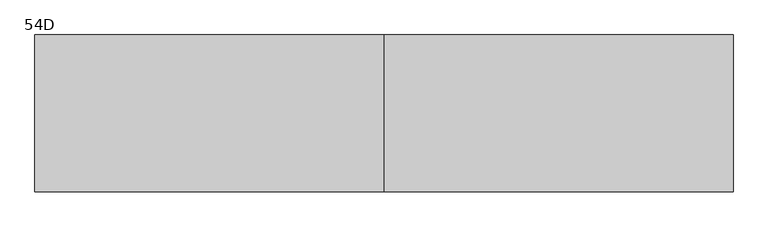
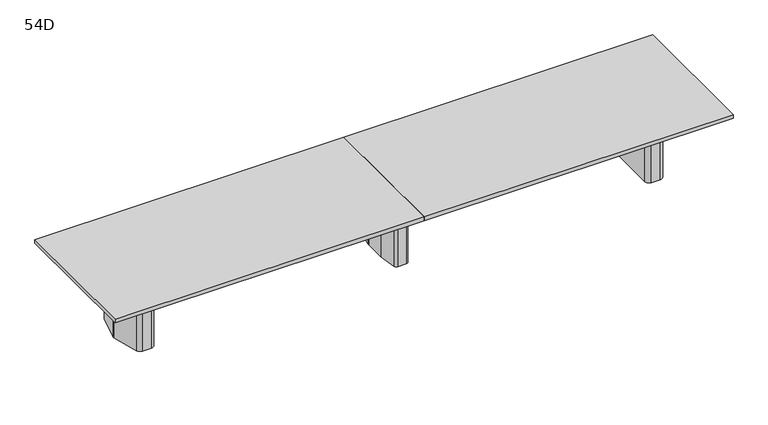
"""IFC4 building model written with IfcOpenShell, lengths in millimetres: furniture geometry, Coalesse_AM_Table_Conference_ETable2_Rectangular_20ft_ThreeBase : 54D."""

from ifc_helpers import new_model, si_unit, frame, origin, place, context, project, spatial, polyline, circle_curve, outline, extrude, source, transform, mapped, element, save
from ifc_brep_helpers import plane_surface, cylinder_surface, revolved_surface, advanced_brep


def furniture_54d_8b636b1f(model_context):
    return source(origin(), model_context, "Body", "SolidModel", [
        advanced_brep(
        [(35.71875, 206.375, 3.175), (10.31875, 231.775, 3.175), (-10.31875, 231.775, 3.175), (-35.71875, 206.375, 3.175), (-35.71875, -206.375, 3.175), (-10.31875, -231.775, 3.175), (10.31875, -231.775, 3.175), (35.71875, -206.375, 3.175), (-61.11875, 206.375, 0.0), (-10.31875, 257.175, 0.0), (10.31875, 257.175, 0.0), (61.11875, 206.375, 0.0), (61.11875, -206.375, 0.0), (10.31875, -257.175, 0.0), (-10.31875, -257.175, 0.0), (-61.11875, -206.375, 0.0), (-61.11875, -206.375, 3.175), (-61.11875, 206.375, 3.175), (-10.31875, -257.175, 3.175), (10.31875, -257.175, 3.175), (61.11875, -206.375, 3.175), (61.11875, 206.375, 3.175), (10.31875, 257.175, 3.175), (-10.31875, 257.175, 3.175), (-92.6215974, 106.2976848, 698.5), (-92.86875, 102.7629613, 698.5), (-92.86875, -102.7629613, 698.5), (-92.6215974, -106.2976848, 698.5), (-67.7988375, -282.9347235, 698.5), (-42.6459902, -304.8, 698.5), (42.6459902, -304.8, 698.5), (67.7988375, -282.9347235, 698.5), (92.6215974, -106.2976848, 698.5), (92.86875, -102.7629613, 698.5), (92.86875, 102.7629613, 698.5), (92.6215974, 106.2976848, 698.5), (67.7988375, 282.9347235, 698.5), (42.6459902, 304.8, 698.5), (-42.6459902, 304.8, 698.5), (-67.7988375, 282.9347235, 698.5), (10.31875, 231.775, 698.5), (35.71875, 206.375, 698.5), (35.71875, -206.375, 698.5), (10.31875, -231.775, 698.5), (-10.31875, -231.775, 698.5), (-35.71875, -206.375, 698.5), (-35.71875, 206.375, 698.5), (-10.31875, 231.775, 698.5), (-92.6215974, 106.2976848, 3.175), (-67.7988375, 282.9347235, 3.175), (-42.6459902, 304.8, 3.175), (42.6459902, 304.8, 3.175), (67.7988375, 282.9347235, 3.175), (92.6215974, 106.2976848, 3.175), (92.86875, 102.7629613, 3.175), (92.86875, -102.7629613, 3.175), (92.6215974, -106.2976848, 3.175), (67.7988375, -282.9347235, 3.175), (42.6459902, -304.8, 3.175), (-42.6459902, -304.8, 3.175), (-67.7988375, -282.9347235, 3.175), (-92.6215974, -106.2976848, 3.175), (-92.86875, -102.7629613, 3.175), (-92.86875, 102.7629613, 3.175)],
        [
            (0, 1, circle_curve(frame((10.31875, 206.375, 3.175), z_axis=(0.0, 0.0, 1.0), x_axis=(1.0, 0.0, 0.0)), 25.4)),
            (1, 2),
            (2, 3, circle_curve(frame((-10.31875, 206.375, 3.175), z_axis=(0.0, 0.0, 1.0), x_axis=(1.0, 0.0, 0.0)), 25.4)),
            (3, 4),
            (4, 5, circle_curve(frame((-10.31875, -206.375, 3.175), z_axis=(0.0, 0.0, 1.0), x_axis=(1.0, 0.0, 0.0)), 25.4)),
            (5, 6),
            (6, 7, circle_curve(frame((10.31875, -206.375, 3.175), z_axis=(0.0, 0.0, 1.0), x_axis=(1.0, 0.0, 0.0)), 25.4)),
            (7, 0),
            (8, 9, circle_curve(frame((-10.31875, 206.375, 0.0), z_axis=(0.0, 0.0, -1.0), x_axis=(1.0, 0.0, 0.0)), 50.8)),
            (9, 10),
            (10, 11, circle_curve(frame((10.31875, 206.375, 0.0), z_axis=(0.0, 0.0, -1.0), x_axis=(1.0, 0.0, 0.0)), 50.8)),
            (11, 12),
            (12, 13, circle_curve(frame((10.31875, -206.375, 0.0), z_axis=(0.0, 0.0, -1.0), x_axis=(1.0, 0.0, 0.0)), 50.8)),
            (13, 14),
            (14, 15, circle_curve(frame((-10.31875, -206.375, 0.0), z_axis=(0.0, 0.0, -1.0), x_axis=(1.0, 0.0, 0.0)), 50.8)),
            (15, 8),
            (15, 16),
            (16, 17),
            (17, 8),
            (14, 18),
            (18, 16, circle_curve(frame((-10.31875, -206.375, 3.175), z_axis=(0.0, 0.0, -1.0), x_axis=(1.0, 0.0, 0.0)), 50.8)),
            (13, 19),
            (19, 18),
            (12, 20),
            (20, 19, circle_curve(frame((10.31875, -206.375, 3.175), z_axis=(0.0, 0.0, -1.0), x_axis=(1.0, 0.0, 0.0)), 50.8)),
            (11, 21),
            (21, 20),
            (10, 22),
            (22, 21, circle_curve(frame((10.31875, 206.375, 3.175), z_axis=(0.0, 0.0, -1.0), x_axis=(1.0, 0.0, 0.0)), 50.8)),
            (9, 23),
            (23, 22),
            (17, 23, circle_curve(frame((-10.31875, 206.375, 3.175), z_axis=(0.0, 0.0, -1.0), x_axis=(1.0, 0.0, 0.0)), 50.8)),
            (24, 25, circle_curve(frame((-67.46875, 102.7629613, 698.5), z_axis=(0.0, 0.0, 1.0), x_axis=(1.0, 0.0, 0.0)), 25.4)),
            (25, 26),
            (26, 27, circle_curve(frame((-67.46875, -102.7629613, 698.5), z_axis=(0.0, 0.0, 1.0), x_axis=(1.0, 0.0, 0.0)), 25.4)),
            (27, 28),
            (28, 29, circle_curve(frame((-42.6459902, -279.4, 698.5), z_axis=(0.0, 0.0, 1.0), x_axis=(1.0, 0.0, 0.0)), 25.4)),
            (29, 30),
            (30, 31, circle_curve(frame((42.6459902, -279.4, 698.5), z_axis=(0.0, 0.0, 1.0), x_axis=(1.0, 0.0, 0.0)), 25.4)),
            (31, 32),
            (32, 33, circle_curve(frame((67.46875, -102.7629613, 698.5), z_axis=(0.0, 0.0, 1.0), x_axis=(1.0, 0.0, 0.0)), 25.4)),
            (33, 34),
            (34, 35, circle_curve(frame((67.46875, 102.7629613, 698.5), z_axis=(0.0, 0.0, 1.0), x_axis=(1.0, 0.0, 0.0)), 25.4)),
            (35, 36),
            (36, 37, circle_curve(frame((42.6459902, 279.4, 698.5), z_axis=(0.0, 0.0, 1.0), x_axis=(1.0, 0.0, 0.0)), 25.4)),
            (37, 38),
            (38, 39, circle_curve(frame((-42.6459902, 279.4, 698.5), z_axis=(0.0, 0.0, 1.0), x_axis=(1.0, 0.0, 0.0)), 25.4)),
            (39, 24),
            (40, 41, circle_curve(frame((10.31875, 206.375, 698.5), z_axis=(0.0, 0.0, -1.0), x_axis=(1.0, 0.0, 0.0)), 25.4)),
            (41, 42),
            (42, 43, circle_curve(frame((10.31875, -206.375, 698.5), z_axis=(0.0, 0.0, -1.0), x_axis=(1.0, 0.0, 0.0)), 25.4)),
            (43, 44),
            (44, 45, circle_curve(frame((-10.31875, -206.375, 698.5), z_axis=(0.0, 0.0, -1.0), x_axis=(1.0, 0.0, 0.0)), 25.4)),
            (45, 46),
            (46, 47, circle_curve(frame((-10.31875, 206.375, 698.5), z_axis=(0.0, 0.0, -1.0), x_axis=(1.0, 0.0, 0.0)), 25.4)),
            (47, 40),
            (48, 49),
            (49, 50, circle_curve(frame((-42.6459902, 279.4, 3.175), z_axis=(0.0, 0.0, -1.0), x_axis=(1.0, 0.0, 0.0)), 25.4)),
            (50, 51),
            (51, 52, circle_curve(frame((42.6459902, 279.4, 3.175), z_axis=(0.0, 0.0, -1.0), x_axis=(1.0, 0.0, 0.0)), 25.4)),
            (52, 53),
            (53, 54, circle_curve(frame((67.46875, 102.7629613, 3.175), z_axis=(0.0, 0.0, -1.0), x_axis=(1.0, 0.0, 0.0)), 25.4)),
            (54, 55),
            (55, 56, circle_curve(frame((67.46875, -102.7629613, 3.175), z_axis=(0.0, 0.0, -1.0), x_axis=(1.0, 0.0, 0.0)), 25.4)),
            (56, 57),
            (57, 58, circle_curve(frame((42.6459902, -279.4, 3.175), z_axis=(0.0, 0.0, -1.0), x_axis=(1.0, 0.0, 0.0)), 25.4)),
            (58, 59),
            (59, 60, circle_curve(frame((-42.6459902, -279.4, 3.175), z_axis=(0.0, 0.0, -1.0), x_axis=(1.0, 0.0, 0.0)), 25.4)),
            (60, 61),
            (61, 62, circle_curve(frame((-67.46875, -102.7629613, 3.175), z_axis=(0.0, 0.0, -1.0), x_axis=(1.0, 0.0, 0.0)), 25.4)),
            (62, 63),
            (63, 48, circle_curve(frame((-67.46875, 102.7629613, 3.175), z_axis=(0.0, 0.0, -1.0), x_axis=(1.0, 0.0, 0.0)), 25.4)),
            (24, 48),
            (63, 25),
            (62, 26),
            (61, 27),
            (60, 28),
            (59, 29),
            (58, 30),
            (57, 31),
            (56, 32),
            (55, 33),
            (54, 34),
            (53, 35),
            (52, 36),
            (51, 37),
            (50, 38),
            (49, 39),
            (40, 1),
            (0, 41),
            (7, 42),
            (6, 43),
            (5, 44),
            (4, 45),
            (3, 46),
            (2, 47),
        ],
        [
            plane_surface(frame((-61.11875, -206.375, 3.175), z_axis=(0.0, 0.0, 1.0), x_axis=(0.0, -1.0, 0.0))),
            plane_surface(frame((-61.11875, -206.375, 0.0), z_axis=(0.0, 0.0, -1.0), x_axis=(0.0, 1.0, 0.0))),
            plane_surface(frame((-61.11875, 206.375, 3.175), z_axis=(-1.0, 0.0, 0.0), x_axis=(0.0, 0.0, -1.0))),
            cylinder_surface(frame((-10.31875, -206.375, 0.0), z_axis=(0.0, 0.0, 1.0), x_axis=(1.0, 0.0, 0.0)), 50.8),
            plane_surface(frame((-10.31875, -257.175, 3.175), z_axis=(0.0, -1.0, 0.0), x_axis=(0.0, 0.0, -1.0))),
            cylinder_surface(frame((10.31875, -206.375, 0.0), z_axis=(0.0, 0.0, 1.0), x_axis=(1.0, 0.0, 0.0)), 50.8),
            plane_surface(frame((61.11875, -206.375, 3.175), z_axis=(1.0, 0.0, 0.0), x_axis=(0.0, 0.0, -1.0))),
            cylinder_surface(frame((10.31875, 206.375, 0.0), z_axis=(0.0, 0.0, 1.0), x_axis=(1.0, 0.0, 0.0)), 50.8),
            plane_surface(frame((10.31875, 257.175, 3.175), z_axis=(0.0, 1.0, 0.0), x_axis=(0.0, 0.0, -1.0))),
            cylinder_surface(frame((-10.31875, 206.375, 0.0), z_axis=(0.0, 0.0, 1.0), x_axis=(1.0, 0.0, 0.0)), 50.8),
            plane_surface(frame((-42.06875, 102.7629613, 698.5), z_axis=(0.0, 0.0, 1.0), x_axis=(0.0, 1.0, 0.0))),
            plane_surface(frame((-42.06875, 102.7629613, 3.175), z_axis=(0.0, 0.0, -1.0), x_axis=(0.0, -1.0, 0.0))),
            cylinder_surface(frame((-67.46875, 102.7629613, 3.175), z_axis=(0.0, 0.0, 1.0), x_axis=(1.0, 0.0, 0.0)), 25.4),
            plane_surface(frame((-92.86875, 102.7629613, 698.5), z_axis=(-1.0, 0.0, 0.0), x_axis=(0.0, 0.0, -1.0))),
            cylinder_surface(frame((-67.46875, -102.7629613, 3.175), z_axis=(0.0, 0.0, 1.0), x_axis=(1.0, 0.0, 0.0)), 25.4),
            plane_surface(frame((-92.6215974, -106.2976848, 698.5), z_axis=(-0.9902695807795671, -0.13916234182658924, 0.0), x_axis=(0.0, 0.0, -1.0))),
            cylinder_surface(frame((-42.6459902, -279.4, 3.175), z_axis=(0.0, 0.0, 1.0), x_axis=(1.0, 0.0, 0.0)), 25.4),
            plane_surface(frame((-42.6459902, -304.8, 698.5), z_axis=(0.0, -1.0, 0.0), x_axis=(0.0, 0.0, -1.0))),
            cylinder_surface(frame((42.6459902, -279.4, 3.175), z_axis=(0.0, 0.0, 1.0), x_axis=(1.0, 0.0, 0.0)), 25.4),
            plane_surface(frame((67.7988375, -282.9347235, 698.5), z_axis=(0.9902695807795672, -0.13916234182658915, 0.0), x_axis=(0.0, 0.0, -1.0))),
            cylinder_surface(frame((67.46875, -102.7629613, 3.175), z_axis=(0.0, 0.0, 1.0), x_axis=(1.0, 0.0, 0.0)), 25.4),
            plane_surface(frame((92.86875, -102.7629613, 698.5), z_axis=(1.0, 0.0, 0.0), x_axis=(0.0, 0.0, -1.0))),
            cylinder_surface(frame((67.46875, 102.7629613, 3.175), z_axis=(0.0, 0.0, 1.0), x_axis=(1.0, 0.0, 0.0)), 25.4),
            plane_surface(frame((92.6215974, 106.2976848, 698.5), z_axis=(0.9902695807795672, 0.1391623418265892, 0.0), x_axis=(0.0, 0.0, -1.0))),
            cylinder_surface(frame((42.6459902, 279.4, 3.175), z_axis=(0.0, 0.0, 1.0), x_axis=(1.0, 0.0, 0.0)), 25.4),
            plane_surface(frame((42.6459902, 304.8, 698.5), z_axis=(0.0, 1.0, 0.0), x_axis=(0.0, 0.0, -1.0))),
            cylinder_surface(frame((-42.6459902, 279.4, 3.175), z_axis=(0.0, 0.0, 1.0), x_axis=(1.0, 0.0, 0.0)), 25.4),
            plane_surface(frame((-67.7988375, 282.9347235, 698.5), z_axis=(-0.9902695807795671, 0.13916234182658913, 0.0), x_axis=(0.0, 0.0, -1.0))),
            revolved_surface(polyline([(35.71875, 206.375, 3.175), (35.71875, 206.375, 698.5)]), (10.31875, 206.375, 0.0), (0.0, 0.0, -1.0)),
            plane_surface(frame((35.71875, 206.375, 698.5), z_axis=(-1.0, 0.0, 0.0), x_axis=(0.0, 0.0, -1.0))),
            revolved_surface(polyline([(35.71875, -206.375, 3.175), (35.71875, -206.375, 698.5)]), (10.31875, -206.375, 0.0), (0.0, 0.0, -1.0)),
            plane_surface(frame((10.31875, -231.775, 698.5), z_axis=(0.0, 1.0, 0.0), x_axis=(0.0, 0.0, -1.0))),
            revolved_surface(polyline([(15.081249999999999, -206.375, 3.175), (15.081249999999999, -206.375, 698.5)]), (-10.31875, -206.375, 0.0), (0.0, 0.0, -1.0)),
            plane_surface(frame((-35.71875, -206.375, 698.5), z_axis=(1.0, 0.0, 0.0), x_axis=(0.0, 0.0, -1.0))),
            revolved_surface(polyline([(15.081249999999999, 206.375, 3.175), (15.081249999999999, 206.375, 698.5)]), (-10.31875, 206.375, 0.0), (0.0, 0.0, -1.0)),
            plane_surface(frame((-10.31875, 231.775, 698.5), z_axis=(0.0, -1.0, 0.0), x_axis=(0.0, 0.0, -1.0))),
        ],
        [
            (0, [[1, 2, 3, 4, 5, 6, 7, 8]]),
            (1, [[9, 10, 11, 12, 13, 14, 15, 16]]),
            (2, [[-16, 17, 18, 19]]),
            (3, [[-15, 20, 21, -17]]),
            (4, [[-14, 22, 23, -20]]),
            (5, [[-13, 24, 25, -22]]),
            (6, [[-12, 26, 27, -24]]),
            (7, [[-11, 28, 29, -26]]),
            (8, [[-10, 30, 31, -28]]),
            (9, [[-9, -19, 32, -30]]),
            (10, [[33, 34, 35, 36, 37, 38, 39, 40, 41, 42, 43, 44, 45, 46, 47, 48], [49, 50, 51, 52, 53, 54, 55, 56]]),
            (11, [[57, 58, 59, 60, 61, 62, 63, 64, 65, 66, 67, 68, 69, 70, 71, 72], [-18, -21, -23, -25, -27, -29, -31, -32]]),
            (12, [[-33, 73, -72, 74]]),
            (13, [[-34, -74, -71, 75]]),
            (14, [[-35, -75, -70, 76]]),
            (15, [[-36, -76, -69, 77]]),
            (16, [[-37, -77, -68, 78]]),
            (17, [[-38, -78, -67, 79]]),
            (18, [[-39, -79, -66, 80]]),
            (19, [[-40, -80, -65, 81]]),
            (20, [[-41, -81, -64, 82]]),
            (21, [[-42, -82, -63, 83]]),
            (22, [[-43, -83, -62, 84]]),
            (23, [[-44, -84, -61, 85]]),
            (24, [[-45, -85, -60, 86]]),
            (25, [[-46, -86, -59, 87]]),
            (26, [[-47, -87, -58, 88]]),
            (27, [[-48, -88, -57, -73]]),
            (28, [[-49, 89, -1, 90]]),
            (29, [[-50, -90, -8, 91]]),
            (30, [[-51, -91, -7, 92]]),
            (31, [[-52, -92, -6, 93]]),
            (32, [[-53, -93, -5, 94]]),
            (33, [[-54, -94, -4, 95]]),
            (34, [[-55, -95, -3, 96]]),
            (35, [[-56, -96, -2, -89]]),
        ],
    ),
        advanced_brep(
        [(2589.424548, 274.2093613, 698.5), (2549.5579246, 304.8, 698.5), (2460.625, 304.8, 698.5), (2419.35, 263.525, 698.5), (2419.35, -263.525, 698.5), (2460.625, -304.8, 698.5), (2549.5579246, -304.8, 698.5), (2589.424548, -274.2093613, 698.5), (2660.0503901, -10.6333708, 698.5), (2660.0503901, 10.6333708, 698.5), (2457.45, -206.375, 698.5), (2457.45, 206.375, 698.5), (2482.85, 231.775, 698.5), (2541.8608422, 231.775, 698.5), (2566.395338, 212.9490792, 698.5), (2605.0875, 68.54974, 698.5), (2605.0875, -68.54974, 698.5), (2566.395338, -212.9490792, 698.5), (2541.8608422, -231.775, 698.5), (2482.85, -231.775, 698.5), (2589.424548, 274.2093613, 3.175), (2660.0503901, 10.6333708, 3.175), (2660.0503901, -10.6333708, 3.175), (2589.424548, -274.2093613, 3.175), (2549.5579246, -304.8, 3.175), (2460.625, -304.8, 3.175), (2419.35, -263.525, 3.175), (2419.35, 263.525, 3.175), (2460.625, 304.8, 3.175), (2549.5579246, 304.8, 3.175), (2578.6625859, 216.2361187, 3.175), (2541.8608422, 244.475, 3.175), (2482.85, 244.475, 3.175), (2444.75, 206.375, 3.175), (2444.75, -206.375, 3.175), (2482.85, -244.475, 3.175), (2541.8608422, -244.475, 3.175), (2578.6625859, -216.2361187, 3.175), (2617.7875, -70.2217466, 3.175), (2617.7875, 70.2217466, 3.175), (2482.85, -231.775, 3.175), (2457.45, -206.375, 3.175), (2541.8608422, -231.775, 3.175), (2566.395338, -212.9490792, 3.175), (2605.0875, -68.54974, 3.175), (2605.0875, 68.54974, 3.175), (2566.395338, 212.9490792, 3.175), (2541.8608422, 231.775, 3.175), (2482.85, 231.775, 3.175), (2457.45, 206.375, 3.175), (2578.6625859, 216.2361187, 0.0), (2617.7875, 70.2217466, 0.0), (2617.7875, -70.2217466, 0.0), (2578.6625859, -216.2361187, 0.0), (2541.8608422, -244.475, 0.0), (2482.85, -244.475, 0.0), (2444.75, -206.375, 0.0), (2444.75, 206.375, 0.0), (2482.85, 244.475, 0.0), (2541.8608422, 244.475, 0.0)],
        [
            (0, 1, circle_curve(frame((2549.5579246, 263.5270004, 698.5), z_axis=(0.0, 0.0, 1.0), x_axis=(-1.0, 0.0, 0.0)), 41.2729996)),
            (1, 2),
            (2, 3, circle_curve(frame((2460.625, 263.525, 698.5), z_axis=(0.0, 0.0, 1.0), x_axis=(-1.0, 0.0, 0.0)), 41.275)),
            (3, 4),
            (4, 5, circle_curve(frame((2460.625, -263.525, 698.5), z_axis=(0.0, 0.0, 1.0), x_axis=(-1.0, 0.0, 0.0)), 41.275)),
            (5, 6),
            (6, 7, circle_curve(frame((2549.5579246, -263.5270004, 698.5), z_axis=(0.0, 0.0, 1.0), x_axis=(-1.0, 0.0, 0.0)), 41.2729996)),
            (7, 8),
            (8, 9, circle_curve(frame((2620.3665979, 0.0, 698.5), z_axis=(0.0, 0.0, 1.0), x_axis=(-1.0, 0.0, 0.0)), 41.0837187)),
            (9, 0),
            (10, 11),
            (11, 12, circle_curve(frame((2482.85, 206.375, 698.5), z_axis=(0.0, 0.0, -1.0), x_axis=(-1.0, 0.0, 0.0)), 25.4)),
            (12, 13),
            (13, 14, circle_curve(frame((2541.8608422, 206.375, 698.5), z_axis=(0.0, 0.0, -1.0), x_axis=(-1.0, 0.0, 0.0)), 25.4)),
            (14, 15),
            (15, 16),
            (16, 17),
            (17, 18, circle_curve(frame((2541.8608422, -206.375, 698.5), z_axis=(0.0, 0.0, -1.0), x_axis=(-1.0, 0.0, 0.0)), 25.4)),
            (18, 19),
            (19, 10, circle_curve(frame((2482.85, -206.375, 698.5), z_axis=(0.0, 0.0, -1.0), x_axis=(-1.0, 0.0, 0.0)), 25.4)),
            (20, 21),
            (21, 22, circle_curve(frame((2620.3665979, 0.0, 3.175), z_axis=(0.0, 0.0, -1.0), x_axis=(-1.0, 0.0, 0.0)), 41.0837187)),
            (22, 23),
            (23, 24, circle_curve(frame((2549.5579246, -263.5270004, 3.175), z_axis=(0.0, 0.0, -1.0), x_axis=(-1.0, 0.0, 0.0)), 41.2729996)),
            (24, 25),
            (25, 26, circle_curve(frame((2460.625, -263.525, 3.175), z_axis=(0.0, 0.0, -1.0), x_axis=(-1.0, 0.0, 0.0)), 41.275)),
            (26, 27),
            (27, 28, circle_curve(frame((2460.625, 263.525, 3.175), z_axis=(0.0, 0.0, -1.0), x_axis=(-1.0, 0.0, 0.0)), 41.275)),
            (28, 29),
            (29, 20, circle_curve(frame((2549.5579246, 263.5270004, 3.175), z_axis=(0.0, 0.0, -1.0), x_axis=(-1.0, 0.0, 0.0)), 41.2729996)),
            (30, 31, circle_curve(frame((2541.8608422, 206.375, 3.175), z_axis=(0.0, 0.0, 1.0), x_axis=(-1.0, 0.0, 0.0)), 38.1)),
            (31, 32),
            (32, 33, circle_curve(frame((2482.85, 206.375, 3.175), z_axis=(0.0, 0.0, 1.0), x_axis=(-1.0, 0.0, 0.0)), 38.1)),
            (33, 34),
            (34, 35, circle_curve(frame((2482.85, -206.375, 3.175), z_axis=(0.0, 0.0, 1.0), x_axis=(-1.0, 0.0, 0.0)), 38.1)),
            (35, 36),
            (36, 37, circle_curve(frame((2541.8608422, -206.375, 3.175), z_axis=(0.0, 0.0, 1.0), x_axis=(-1.0, 0.0, 0.0)), 38.1)),
            (37, 38),
            (38, 39),
            (39, 30),
            (9, 21),
            (20, 0),
            (8, 22),
            (7, 23),
            (6, 24),
            (5, 25),
            (4, 26),
            (3, 27),
            (2, 28),
            (1, 29),
            (19, 40),
            (40, 41, circle_curve(frame((2482.85, -206.375, 3.175), z_axis=(0.0, 0.0, -1.0), x_axis=(-1.0, 0.0, 0.0)), 25.4)),
            (41, 10),
            (18, 42),
            (42, 40),
            (17, 43),
            (43, 42, circle_curve(frame((2541.8608422, -206.375, 3.175), z_axis=(0.0, 0.0, -1.0), x_axis=(-1.0, 0.0, 0.0)), 25.4)),
            (16, 44),
            (44, 43),
            (15, 45),
            (45, 44),
            (14, 46),
            (46, 45),
            (13, 47),
            (47, 46, circle_curve(frame((2541.8608422, 206.375, 3.175), z_axis=(0.0, 0.0, -1.0), x_axis=(-1.0, 0.0, 0.0)), 25.4)),
            (12, 48),
            (48, 47),
            (11, 49),
            (49, 48, circle_curve(frame((2482.85, 206.375, 3.175), z_axis=(0.0, 0.0, -1.0), x_axis=(-1.0, 0.0, 0.0)), 25.4)),
            (41, 49),
            (50, 51),
            (51, 52),
            (52, 53),
            (53, 54, circle_curve(frame((2541.8608422, -206.375, 0.0), z_axis=(0.0, 0.0, -1.0), x_axis=(-1.0, 0.0, 0.0)), 38.1)),
            (54, 55),
            (55, 56, circle_curve(frame((2482.85, -206.375, 0.0), z_axis=(0.0, 0.0, -1.0), x_axis=(-1.0, 0.0, 0.0)), 38.1)),
            (56, 57),
            (57, 58, circle_curve(frame((2482.85, 206.375, 0.0), z_axis=(0.0, 0.0, -1.0), x_axis=(-1.0, 0.0, 0.0)), 38.1)),
            (58, 59),
            (59, 50, circle_curve(frame((2541.8608422, 206.375, 0.0), z_axis=(0.0, 0.0, -1.0), x_axis=(-1.0, 0.0, 0.0)), 38.1)),
            (50, 30),
            (39, 51),
            (38, 52),
            (37, 53),
            (36, 54),
            (35, 55),
            (34, 56),
            (33, 57),
            (32, 58),
            (31, 59),
        ],
        [
            plane_surface(frame((2660.0374275, 10.6817473, 698.5), z_axis=(0.0, 0.0, 1.0000000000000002), x_axis=(0.25882201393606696, -0.9659250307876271, 0.0))),
            plane_surface(frame((2660.0374275, 10.6817473, 3.175), z_axis=(0.0, 0.0, -1.0000000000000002), x_axis=(-0.25882201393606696, 0.9659250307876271, 0.0))),
            plane_surface(frame((2589.424548, 274.2093613, 698.5), z_axis=(0.9659250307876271, 0.25882201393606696, 0.0), x_axis=(0.0, 0.0, -1.0))),
            cylinder_surface(frame((2620.3665979, 0.0, 3.175), z_axis=(0.0, 0.0, 1.0), x_axis=(-1.0, 0.0, 0.0)), 41.0837187),
            plane_surface(frame((2660.0503901, -10.6333708, 698.5), z_axis=(0.9659250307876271, -0.2588220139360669, 0.0), x_axis=(0.0, 0.0, -1.0))),
            cylinder_surface(frame((2549.5579246, -263.5270004, 3.175), z_axis=(0.0, 0.0, 1.0), x_axis=(-1.0, 0.0, 0.0)), 41.2729996),
            plane_surface(frame((2549.5579246, -304.8, 698.5), z_axis=(0.0, -1.0, 0.0), x_axis=(0.0, 0.0, -1.0))),
            cylinder_surface(frame((2460.625, -263.525, 3.175), z_axis=(0.0, 0.0, 1.0), x_axis=(-1.0, 0.0, 0.0)), 41.275),
            plane_surface(frame((2419.35, -263.525, 698.5), z_axis=(-1.0, 0.0, 0.0), x_axis=(0.0, 0.0, -1.0))),
            cylinder_surface(frame((2460.625, 263.525, 3.175), z_axis=(0.0, 0.0, 1.0), x_axis=(-1.0, 0.0, 0.0)), 41.275),
            plane_surface(frame((2460.625, 304.8, 698.5), z_axis=(0.0, 1.0, 0.0), x_axis=(0.0, 0.0, -1.0))),
            cylinder_surface(frame((2549.5579246, 263.5270004, 3.175), z_axis=(0.0, 0.0, 1.0), x_axis=(-1.0, 0.0, 0.0)), 41.2729996),
            revolved_surface(polyline([(2457.45, -206.375, 3.175), (2457.45, -206.375, 698.5)]), (2482.85, -206.375, 0.0), (0.0, 0.0, -1.0)),
            plane_surface(frame((2482.85, -231.775, 698.5), z_axis=(0.0, 1.0, 0.0), x_axis=(0.0, 0.0, -1.0))),
            revolved_surface(polyline([(2516.4608422, -206.375, 3.175), (2516.4608422, -206.375, 698.5)]), (2541.8608422, -206.375, 0.0), (0.0, 0.0, -1.0)),
            plane_surface(frame((2566.395338, -212.9490792, 698.5), z_axis=(-0.9659250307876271, 0.2588220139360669, 0.0), x_axis=(0.0, 0.0, -1.0))),
            plane_surface(frame((2605.0875, -68.54974, 698.5), z_axis=(-1.0, 0.0, 0.0), x_axis=(0.0, 0.0, -1.0))),
            plane_surface(frame((2605.0875, 68.54974, 698.5), z_axis=(-0.9659250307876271, -0.25882201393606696, 0.0), x_axis=(0.0, 0.0, -1.0))),
            revolved_surface(polyline([(2516.4608422, 206.375, 3.175), (2516.4608422, 206.375, 698.5)]), (2541.8608422, 206.375, 0.0), (0.0, 0.0, -1.0)),
            plane_surface(frame((2541.8608422, 231.775, 698.5), z_axis=(0.0, -1.0, 0.0), x_axis=(0.0, 0.0, -1.0))),
            revolved_surface(polyline([(2457.45, 206.375, 3.175), (2457.45, 206.375, 698.5)]), (2482.85, 206.375, 0.0), (0.0, 0.0, -1.0)),
            plane_surface(frame((2457.45, 206.375, 698.5), z_axis=(1.0, 0.0, 0.0), x_axis=(0.0, 0.0, -1.0))),
            plane_surface(frame((2617.3547479, 71.8367796, 3.175), z_axis=(0.0, 0.0, 1.0), x_axis=(0.25882201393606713, -0.965925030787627, 0.0))),
            plane_surface(frame((2617.3547479, 71.8367796, 0.0), z_axis=(0.0, 0.0, -1.0), x_axis=(-0.25882201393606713, 0.965925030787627, 0.0))),
            plane_surface(frame((2578.6625859, 216.2361187, 3.175), z_axis=(0.965925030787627, 0.25882201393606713, 0.0), x_axis=(0.0, 0.0, -1.0))),
            plane_surface(frame((2617.7875, 70.2217466, 3.175), z_axis=(1.0, 0.0, 0.0), x_axis=(0.0, 0.0, -1.0))),
            plane_surface(frame((2617.7875, -70.2217466, 3.175), z_axis=(0.9659250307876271, -0.2588220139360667, 0.0), x_axis=(0.0, 0.0, -1.0))),
            cylinder_surface(frame((2541.8608422, -206.375, 0.0), z_axis=(0.0, 0.0, 1.0), x_axis=(-1.0, 0.0, 0.0)), 38.1),
            plane_surface(frame((2541.8608422, -244.475, 3.175), z_axis=(0.0, -1.0, 0.0), x_axis=(0.0, 0.0, -1.0))),
            cylinder_surface(frame((2482.85, -206.375, 0.0), z_axis=(0.0, 0.0, 1.0), x_axis=(-1.0, 0.0, 0.0)), 38.1),
            plane_surface(frame((2444.75, -206.375, 3.175), z_axis=(-1.0, 0.0, 0.0), x_axis=(0.0, 0.0, -1.0))),
            cylinder_surface(frame((2482.85, 206.375, 0.0), z_axis=(0.0, 0.0, 1.0), x_axis=(-1.0, 0.0, 0.0)), 38.1),
            plane_surface(frame((2482.85, 244.475, 3.175), z_axis=(0.0, 1.0, 0.0), x_axis=(0.0, 0.0, -1.0))),
            cylinder_surface(frame((2541.8608422, 206.375, 0.0), z_axis=(0.0, 0.0, 1.0), x_axis=(-1.0, 0.0, 0.0)), 38.1),
        ],
        [
            (0, [[1, 2, 3, 4, 5, 6, 7, 8, 9, 10], [11, 12, 13, 14, 15, 16, 17, 18, 19, 20]]),
            (1, [[21, 22, 23, 24, 25, 26, 27, 28, 29, 30], [31, 32, 33, 34, 35, 36, 37, 38, 39, 40]]),
            (2, [[41, -21, 42, -10]]),
            (3, [[43, -22, -41, -9]]),
            (4, [[44, -23, -43, -8]]),
            (5, [[45, -24, -44, -7]]),
            (6, [[46, -25, -45, -6]]),
            (7, [[47, -26, -46, -5]]),
            (8, [[48, -27, -47, -4]]),
            (9, [[49, -28, -48, -3]]),
            (10, [[50, -29, -49, -2]]),
            (11, [[-42, -30, -50, -1]]),
            (12, [[51, 52, 53, -20]]),
            (13, [[54, 55, -51, -19]]),
            (14, [[56, 57, -54, -18]]),
            (15, [[58, 59, -56, -17]]),
            (16, [[60, 61, -58, -16]]),
            (17, [[62, 63, -60, -15]]),
            (18, [[64, 65, -62, -14]]),
            (19, [[66, 67, -64, -13]]),
            (20, [[68, 69, -66, -12]]),
            (21, [[-53, 70, -68, -11]]),
            (22, [[-55, -57, -59, -61, -63, -65, -67, -69, -70, -52]]),
            (23, [[71, 72, 73, 74, 75, 76, 77, 78, 79, 80]]),
            (24, [[81, -40, 82, -71]]),
            (25, [[-82, -39, 83, -72]]),
            (26, [[-83, -38, 84, -73]]),
            (27, [[-84, -37, 85, -74]]),
            (28, [[-85, -36, 86, -75]]),
            (29, [[-86, -35, 87, -76]]),
            (30, [[-87, -34, 88, -77]]),
            (31, [[-88, -33, 89, -78]]),
            (32, [[-89, -32, 90, -79]]),
            (33, [[-90, -31, -81, -80]]),
        ],
    ),
        advanced_brep(
        [(-2600.537048, 274.2093613, 698.5), (-2671.1628901, 10.6333708, 698.5), (-2671.1628901, -10.6333708, 698.5), (-2600.537048, -274.2093613, 698.5), (-2560.6704246, -304.8, 698.5), (-2471.7375, -304.8, 698.5), (-2430.4625, -263.525, 698.5), (-2430.4625, 263.525, 698.5), (-2471.7375, 304.8, 698.5), (-2560.6704246, 304.8, 698.5), (-2468.5625, -206.375, 698.5), (-2493.9625, -231.775, 698.5), (-2552.9733422, -231.775, 698.5), (-2577.507838, -212.9490792, 698.5), (-2616.2, -68.54974, 698.5), (-2616.2, 68.54974, 698.5), (-2577.507838, 212.9490792, 698.5), (-2552.9733422, 231.775, 698.5), (-2493.9625, 231.775, 698.5), (-2468.5625, 206.375, 698.5), (-2600.537048, 274.2093613, 3.175), (-2560.6704246, 304.8, 3.175), (-2471.7375, 304.8, 3.175), (-2430.4625, 263.525, 3.175), (-2430.4625, -263.525, 3.175), (-2471.7375, -304.8, 3.175), (-2560.6704246, -304.8, 3.175), (-2600.537048, -274.2093613, 3.175), (-2671.1628901, -10.6333708, 3.175), (-2671.1628901, 10.6333708, 3.175), (-2589.7750859, 216.2361187, 3.175), (-2628.9, 70.2217466, 3.175), (-2628.9, -70.2217466, 3.175), (-2589.7750859, -216.2361187, 3.175), (-2552.9733422, -244.475, 3.175), (-2493.9625, -244.475, 3.175), (-2455.8625, -206.375, 3.175), (-2455.8625, 206.375, 3.175), (-2493.9625, 244.475, 3.175), (-2552.9733422, 244.475, 3.175), (-2468.5625, -206.375, 3.175), (-2493.9625, -231.775, 3.175), (-2552.9733422, -231.775, 3.175), (-2577.507838, -212.9490792, 3.175), (-2616.2, -68.54974, 3.175), (-2616.2, 68.54974, 3.175), (-2577.507838, 212.9490792, 3.175), (-2552.9733422, 231.775, 3.175), (-2493.9625, 231.775, 3.175), (-2468.5625, 206.375, 3.175), (-2589.7750859, 216.2361187, 0.0), (-2552.9733422, 244.475, 0.0), (-2493.9625, 244.475, 0.0), (-2455.8625, 206.375, 0.0), (-2455.8625, -206.375, 0.0), (-2493.9625, -244.475, 0.0), (-2552.9733422, -244.475, 0.0), (-2589.7750859, -216.2361187, 0.0), (-2628.9, -70.2217466, 0.0), (-2628.9, 70.2217466, 0.0)],
        [
            (0, 1),
            (1, 2, circle_curve(frame((-2631.4790979, 0.0, 698.5), z_axis=(0.0, 0.0, 1.0), x_axis=(1.0, 0.0, 0.0)), 41.0837187)),
            (2, 3),
            (3, 4, circle_curve(frame((-2560.6704246, -263.5270004, 698.5), z_axis=(0.0, 0.0, 1.0), x_axis=(1.0, 0.0, 0.0)), 41.2729996)),
            (4, 5),
            (5, 6, circle_curve(frame((-2471.7375, -263.525, 698.5), z_axis=(0.0, 0.0, 1.0), x_axis=(1.0, 0.0, 0.0)), 41.275)),
            (6, 7),
            (7, 8, circle_curve(frame((-2471.7375, 263.525, 698.5), z_axis=(0.0, 0.0, 1.0), x_axis=(1.0, 0.0, 0.0)), 41.275)),
            (8, 9),
            (9, 0, circle_curve(frame((-2560.6704246, 263.5270004, 698.5), z_axis=(0.0, 0.0, 1.0), x_axis=(1.0, 0.0, 0.0)), 41.2729996)),
            (10, 11, circle_curve(frame((-2493.9625, -206.375, 698.5), z_axis=(0.0, 0.0, -1.0), x_axis=(1.0, 0.0, 0.0)), 25.4)),
            (11, 12),
            (12, 13, circle_curve(frame((-2552.9733422, -206.375, 698.5), z_axis=(0.0, 0.0, -1.0), x_axis=(1.0, 0.0, 0.0)), 25.4)),
            (13, 14),
            (14, 15),
            (15, 16),
            (16, 17, circle_curve(frame((-2552.9733422, 206.375, 698.5), z_axis=(0.0, 0.0, -1.0), x_axis=(1.0, 0.0, 0.0)), 25.4)),
            (17, 18),
            (18, 19, circle_curve(frame((-2493.9625, 206.375, 698.5), z_axis=(0.0, 0.0, -1.0), x_axis=(1.0, 0.0, 0.0)), 25.4)),
            (19, 10),
            (20, 21, circle_curve(frame((-2560.6704246, 263.5270004, 3.175), z_axis=(0.0, 0.0, -1.0), x_axis=(1.0, 0.0, 0.0)), 41.2729996)),
            (21, 22),
            (22, 23, circle_curve(frame((-2471.7375, 263.525, 3.175), z_axis=(0.0, 0.0, -1.0), x_axis=(1.0, 0.0, 0.0)), 41.275)),
            (23, 24),
            (24, 25, circle_curve(frame((-2471.7375, -263.525, 3.175), z_axis=(0.0, 0.0, -1.0), x_axis=(1.0, 0.0, 0.0)), 41.275)),
            (25, 26),
            (26, 27, circle_curve(frame((-2560.6704246, -263.5270004, 3.175), z_axis=(0.0, 0.0, -1.0), x_axis=(1.0, 0.0, 0.0)), 41.2729996)),
            (27, 28),
            (28, 29, circle_curve(frame((-2631.4790979, 0.0, 3.175), z_axis=(0.0, 0.0, -1.0), x_axis=(1.0, 0.0, 0.0)), 41.0837187)),
            (29, 20),
            (30, 31),
            (31, 32),
            (32, 33),
            (33, 34, circle_curve(frame((-2552.9733422, -206.375, 3.175), z_axis=(0.0, 0.0, 1.0), x_axis=(1.0, 0.0, 0.0)), 38.1)),
            (34, 35),
            (35, 36, circle_curve(frame((-2493.9625, -206.375, 3.175), z_axis=(0.0, 0.0, 1.0), x_axis=(1.0, 0.0, 0.0)), 38.1)),
            (36, 37),
            (37, 38, circle_curve(frame((-2493.9625, 206.375, 3.175), z_axis=(0.0, 0.0, 1.0), x_axis=(1.0, 0.0, 0.0)), 38.1)),
            (38, 39),
            (39, 30, circle_curve(frame((-2552.9733422, 206.375, 3.175), z_axis=(0.0, 0.0, 1.0), x_axis=(1.0, 0.0, 0.0)), 38.1)),
            (0, 20),
            (29, 1),
            (28, 2),
            (27, 3),
            (26, 4),
            (25, 5),
            (24, 6),
            (23, 7),
            (22, 8),
            (21, 9),
            (10, 40),
            (40, 41, circle_curve(frame((-2493.9625, -206.375, 3.175), z_axis=(0.0, 0.0, -1.0), x_axis=(1.0, 0.0, 0.0)), 25.4)),
            (41, 11),
            (41, 42),
            (42, 12),
            (42, 43, circle_curve(frame((-2552.9733422, -206.375, 3.175), z_axis=(0.0, 0.0, -1.0), x_axis=(1.0, 0.0, 0.0)), 25.4)),
            (43, 13),
            (43, 44),
            (44, 14),
            (44, 45),
            (45, 15),
            (45, 46),
            (46, 16),
            (46, 47, circle_curve(frame((-2552.9733422, 206.375, 3.175), z_axis=(0.0, 0.0, -1.0), x_axis=(1.0, 0.0, 0.0)), 25.4)),
            (47, 17),
            (47, 48),
            (48, 18),
            (48, 49, circle_curve(frame((-2493.9625, 206.375, 3.175), z_axis=(0.0, 0.0, -1.0), x_axis=(1.0, 0.0, 0.0)), 25.4)),
            (49, 19),
            (49, 40),
            (50, 51, circle_curve(frame((-2552.9733422, 206.375, 0.0), z_axis=(0.0, 0.0, -1.0), x_axis=(1.0, 0.0, 0.0)), 38.1)),
            (51, 52),
            (52, 53, circle_curve(frame((-2493.9625, 206.375, 0.0), z_axis=(0.0, 0.0, -1.0), x_axis=(1.0, 0.0, 0.0)), 38.1)),
            (53, 54),
            (54, 55, circle_curve(frame((-2493.9625, -206.375, 0.0), z_axis=(0.0, 0.0, -1.0), x_axis=(1.0, 0.0, 0.0)), 38.1)),
            (55, 56),
            (56, 57, circle_curve(frame((-2552.9733422, -206.375, 0.0), z_axis=(0.0, 0.0, -1.0), x_axis=(1.0, 0.0, 0.0)), 38.1)),
            (57, 58),
            (58, 59),
            (59, 50),
            (59, 31),
            (30, 50),
            (58, 32),
            (57, 33),
            (56, 34),
            (55, 35),
            (54, 36),
            (53, 37),
            (52, 38),
            (51, 39),
        ],
        [
            plane_surface(frame((-2671.1499275, 10.6817473, 698.5), z_axis=(0.0, 0.0, 1.0000000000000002), x_axis=(-0.25882201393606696, -0.9659250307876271, 0.0))),
            plane_surface(frame((-2671.1499275, 10.6817473, 3.175), z_axis=(0.0, 0.0, -1.0000000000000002), x_axis=(0.25882201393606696, 0.9659250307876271, 0.0))),
            plane_surface(frame((-2600.537048, 274.2093613, 698.5), z_axis=(-0.9659250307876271, 0.25882201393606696, 0.0), x_axis=(0.0, 0.0, -1.0))),
            cylinder_surface(frame((-2631.4790979, 0.0, 3.175), z_axis=(0.0, 0.0, 1.0), x_axis=(1.0, 0.0, 0.0)), 41.0837187),
            plane_surface(frame((-2671.1628901, -10.6333708, 698.5), z_axis=(-0.9659250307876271, -0.2588220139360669, 0.0), x_axis=(0.0, 0.0, -1.0))),
            cylinder_surface(frame((-2560.6704246, -263.5270004, 3.175), z_axis=(0.0, 0.0, 1.0), x_axis=(1.0, 0.0, 0.0)), 41.2729996),
            plane_surface(frame((-2560.6704246, -304.8, 698.5), z_axis=(0.0, -1.0, 0.0), x_axis=(0.0, 0.0, -1.0))),
            cylinder_surface(frame((-2471.7375, -263.525, 3.175), z_axis=(0.0, 0.0, 1.0), x_axis=(1.0, 0.0, 0.0)), 41.275),
            plane_surface(frame((-2430.4625, -263.525, 698.5), z_axis=(1.0, 0.0, 0.0), x_axis=(0.0, 0.0, -1.0))),
            cylinder_surface(frame((-2471.7375, 263.525, 3.175), z_axis=(0.0, 0.0, 1.0), x_axis=(1.0, 0.0, 0.0)), 41.275),
            plane_surface(frame((-2471.7375, 304.8, 698.5), z_axis=(0.0, 1.0, 0.0), x_axis=(0.0, 0.0, -1.0))),
            cylinder_surface(frame((-2560.6704246, 263.5270004, 3.175), z_axis=(0.0, 0.0, 1.0), x_axis=(1.0, 0.0, 0.0)), 41.2729996),
            revolved_surface(polyline([(-2468.5625, -206.375, 3.175), (-2468.5625, -206.375, 698.5)]), (-2493.9625, -206.375, 0.0), (0.0, 0.0, -1.0)),
            plane_surface(frame((-2493.9625, -231.775, 698.5), z_axis=(0.0, 1.0, 0.0), x_axis=(0.0, 0.0, -1.0))),
            revolved_surface(polyline([(-2527.5733422, -206.375, 3.175), (-2527.5733422, -206.375, 698.5)]), (-2552.9733422, -206.375, 0.0), (0.0, 0.0, -1.0)),
            plane_surface(frame((-2577.507838, -212.9490792, 698.5), z_axis=(0.9659250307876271, 0.2588220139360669, 0.0), x_axis=(0.0, 0.0, -1.0))),
            plane_surface(frame((-2616.2, -68.54974, 698.5), z_axis=(1.0, 0.0, 0.0), x_axis=(0.0, 0.0, -1.0))),
            plane_surface(frame((-2616.2, 68.54974, 698.5), z_axis=(0.9659250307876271, -0.25882201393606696, 0.0), x_axis=(0.0, 0.0, -1.0))),
            revolved_surface(polyline([(-2527.5733422, 206.375, 3.175), (-2527.5733422, 206.375, 698.5)]), (-2552.9733422, 206.375, 0.0), (0.0, 0.0, -1.0)),
            plane_surface(frame((-2552.9733422, 231.775, 698.5), z_axis=(0.0, -1.0, 0.0), x_axis=(0.0, 0.0, -1.0))),
            revolved_surface(polyline([(-2468.5625, 206.375, 3.175), (-2468.5625, 206.375, 698.5)]), (-2493.9625, 206.375, 0.0), (0.0, 0.0, -1.0)),
            plane_surface(frame((-2468.5625, 206.375, 698.5), z_axis=(-1.0, 0.0, 0.0), x_axis=(0.0, 0.0, -1.0))),
            plane_surface(frame((-2628.4672479, 71.8367796, 3.175), z_axis=(0.0, 0.0, 1.0), x_axis=(-0.25882201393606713, -0.965925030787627, 0.0))),
            plane_surface(frame((-2628.4672479, 71.8367796, 0.0), z_axis=(0.0, 0.0, -1.0), x_axis=(0.25882201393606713, 0.965925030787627, 0.0))),
            plane_surface(frame((-2589.7750859, 216.2361187, 3.175), z_axis=(-0.965925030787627, 0.25882201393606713, 0.0), x_axis=(0.0, 0.0, -1.0))),
            plane_surface(frame((-2628.9, 70.2217466, 3.175), z_axis=(-1.0, 0.0, 0.0), x_axis=(0.0, 0.0, -1.0))),
            plane_surface(frame((-2628.9, -70.2217466, 3.175), z_axis=(-0.9659250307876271, -0.2588220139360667, 0.0), x_axis=(0.0, 0.0, -1.0))),
            cylinder_surface(frame((-2552.9733422, -206.375, 0.0), z_axis=(0.0, 0.0, 1.0), x_axis=(1.0, 0.0, 0.0)), 38.1),
            plane_surface(frame((-2552.9733422, -244.475, 3.175), z_axis=(0.0, -1.0, 0.0), x_axis=(0.0, 0.0, -1.0))),
            cylinder_surface(frame((-2493.9625, -206.375, 0.0), z_axis=(0.0, 0.0, 1.0), x_axis=(1.0, 0.0, 0.0)), 38.1),
            plane_surface(frame((-2455.8625, -206.375, 3.175), z_axis=(1.0, 0.0, 0.0), x_axis=(0.0, 0.0, -1.0))),
            cylinder_surface(frame((-2493.9625, 206.375, 0.0), z_axis=(0.0, 0.0, 1.0), x_axis=(1.0, 0.0, 0.0)), 38.1),
            plane_surface(frame((-2493.9625, 244.475, 3.175), z_axis=(0.0, 1.0, 0.0), x_axis=(0.0, 0.0, -1.0))),
            cylinder_surface(frame((-2552.9733422, 206.375, 0.0), z_axis=(0.0, 0.0, 1.0), x_axis=(1.0, 0.0, 0.0)), 38.1),
        ],
        [
            (0, [[1, 2, 3, 4, 5, 6, 7, 8, 9, 10], [11, 12, 13, 14, 15, 16, 17, 18, 19, 20]]),
            (1, [[21, 22, 23, 24, 25, 26, 27, 28, 29, 30], [31, 32, 33, 34, 35, 36, 37, 38, 39, 40]]),
            (2, [[-1, 41, -30, 42]]),
            (3, [[-2, -42, -29, 43]]),
            (4, [[-3, -43, -28, 44]]),
            (5, [[-4, -44, -27, 45]]),
            (6, [[-5, -45, -26, 46]]),
            (7, [[-6, -46, -25, 47]]),
            (8, [[-7, -47, -24, 48]]),
            (9, [[-8, -48, -23, 49]]),
            (10, [[-9, -49, -22, 50]]),
            (11, [[-10, -50, -21, -41]]),
            (12, [[-11, 51, 52, 53]]),
            (13, [[-12, -53, 54, 55]]),
            (14, [[-13, -55, 56, 57]]),
            (15, [[-14, -57, 58, 59]]),
            (16, [[-15, -59, 60, 61]]),
            (17, [[-16, -61, 62, 63]]),
            (18, [[-17, -63, 64, 65]]),
            (19, [[-18, -65, 66, 67]]),
            (20, [[-19, -67, 68, 69]]),
            (21, [[-20, -69, 70, -51]]),
            (22, [[-52, -70, -68, -66, -64, -62, -60, -58, -56, -54]]),
            (23, [[71, 72, 73, 74, 75, 76, 77, 78, 79, 80]]),
            (24, [[-80, 81, -31, 82]]),
            (25, [[-79, 83, -32, -81]]),
            (26, [[-78, 84, -33, -83]]),
            (27, [[-77, 85, -34, -84]]),
            (28, [[-76, 86, -35, -85]]),
            (29, [[-75, 87, -36, -86]]),
            (30, [[-74, 88, -37, -87]]),
            (31, [[-73, 89, -38, -88]]),
            (32, [[-72, 90, -39, -89]]),
            (33, [[-71, -82, -40, -90]]),
        ],
    ),
        extrude(outline(polyline([(3048.0, 685.8), (3048.0, -685.8), (0.0, -685.8), (0.0, 685.8), (3048.0, 685.8)])), frame((0.0, 0.0, 698.5), z_axis=(0.0, 0.0, 1.0), x_axis=(1.0, 0.0, 0.0)), (0.0, 0.0, 1.0), 38.1),
        extrude(outline(polyline([(0.0, 685.8), (0.0, -685.8), (-3048.0, -685.8), (-3048.0, 685.8), (0.0, 685.8)])), frame((0.0, 0.0, 698.5), z_axis=(0.0, 0.0, 1.0), x_axis=(1.0, 0.0, 0.0)), (0.0, 0.0, 1.0), 38.1),
        extrude(outline(polyline([(96.8375, 698.5), (103.1875, 698.5), (103.1875, 476.25), (-103.1875, 476.25), (-103.1875, 698.5), (-96.8375, 698.5), (-96.8375, 482.6), (96.8375, 482.6), (96.8375, 698.5)])), frame((-2430.4625, 0.0, 0.0), z_axis=(1.0, 0.0, 0.0), x_axis=(0.0, 1.0, 0.0)), (0.0, 0.0, 1.0), 4849.8125),
    ])


if __name__ == "__main__":
    model = new_model("IFC4")
    model_context = context("Model", 3, world=origin())
    ifc_project = project(units=[si_unit("LENGTHUNIT", "METRE", prefix="MILLI")], contexts=[model_context])
    site = spatial("IfcSite", under=ifc_project)
    building = spatial("IfcBuilding", under=site)
    placement = place(None, origin())
    furniture_54d_shape = furniture_54d_8b636b1f(model_context)
    element("IfcFurniture", 1, ObjectType="Coalesse_AM_Table_Conference_ETable2_Rectangular_20ft_ThreeBase : 54D", at=placement, inside=building, context=model_context, shape_type="MappedRepresentation", body=[
        mapped(furniture_54d_shape, transform((0.0, 0.0, 0.0), x_axis=(1.0, 0.0, 0.0), y_axis=(0.0, 1.0, 0.0), z_axis=(0.0, 0.0, 1.0))),
    ])
    save(model, "model.ifc")
